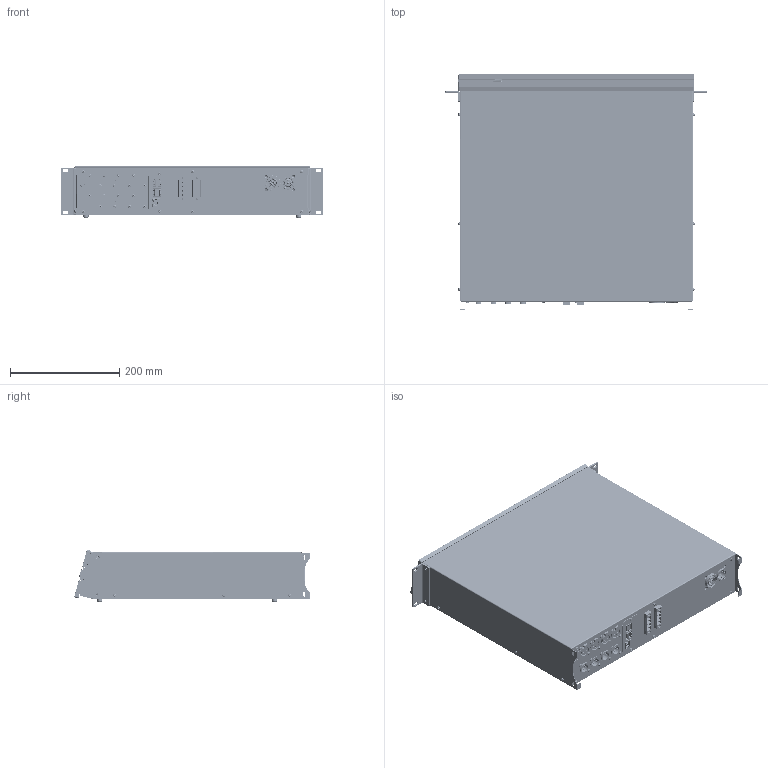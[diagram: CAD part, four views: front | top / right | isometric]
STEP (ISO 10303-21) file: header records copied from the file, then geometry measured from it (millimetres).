
FILE_DESCRIPTION(/* description */ (''),/* implementation_level */ '2;1');
FILE_NAME(/* name */ 'Kommander-KA104',/* time_stamp */ '2026-03-16T14:25:12+01:00',/* author */ (''),/* organization */ (''),/* preprocessor_version */ 'ST-DEVELOPER v19.2',/* originating_system */ 'Rhino 8.24',/* authorisation */ '');
FILE_SCHEMA (('CONFIG_CONTROL_DESIGN'));
Products named in the file (12): Document; hexalobular socket pan head_iso_ISO 14583 - M3 x 6 x 5 - 4.8-N; VTM04X10STIN0; hex tapping screws_iso_Tapping Screw ISO 14585 - ST2.9 x 9.5-C-C; MCP139A10_01; PWRCONNTFMTRUE1; CONM04P762; MCP145A04_01; MMFTT04001; MCP145A02_03; MCP145A05_02; MCP145A06_01
Bounding box: 478.5 x 431.49 x 96.1 mm (x, y, z)
Volume: 942338.7 mm3; surface area: 1260907.2 mm2
Topology: 94 solids, 111 shells, 16413 faces, 46381 edges, 30407 vertices
Faces by surface type: plane 8208, cylinder 6361, bspline 1844
Entity records: 582809 total; most frequent: CARTESIAN_POINT 211114, ORIENTED_EDGE 86353, EDGE_CURVE 43218, DIRECTION 38441, B_SPLINE_CURVE_WITH_KNOTS 30373, VERTEX_POINT 28647, AXIS2_PLACEMENT_3D 26062, EDGE_LOOP 17587
